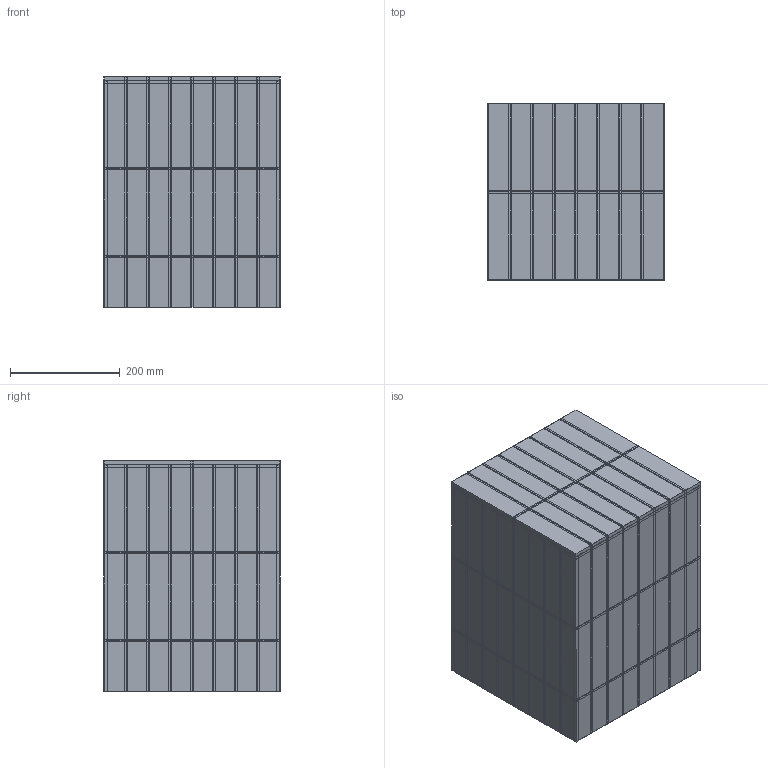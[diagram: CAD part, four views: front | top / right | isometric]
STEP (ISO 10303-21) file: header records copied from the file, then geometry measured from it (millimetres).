
FILE_DESCRIPTION(/* description */ (''),/* implementation_level */ '2;1');
FILE_NAME(/* name */ 'Pillar Side Table_3D',/* time_stamp */ '2026-02-02T15:16:36+01:00',/* author */ (''),/* organization */ (''),/* preprocessor_version */ 'ST-DEVELOPER v19.2',/* originating_system */ 'Rhino 8.27',/* authorisation */ '');
FILE_SCHEMA (('CONFIG_CONTROL_DESIGN'));
Length unit declared in the file: millimetre
Products named in the file (1): Document
Bounding box: 321.74 x 321.74 x 420 mm (x, y, z)
Surface area: 2731018.1 mm2
Topology: 165 solids, 165 shells, 998 faces, 2008 edges, 1343 vertices
Faces by surface type: plane 998
Entity records: 22125 total; most frequent: CARTESIAN_POINT 6355, ORIENTED_EDGE 4008, B_SPLINE_CURVE_WITH_KNOTS 2008, EDGE_CURVE 2004, VERTEX_POINT 1336, DIRECTION 1004, AXIS2_PLACEMENT_3D 1001, ADVANCED_FACE 998
